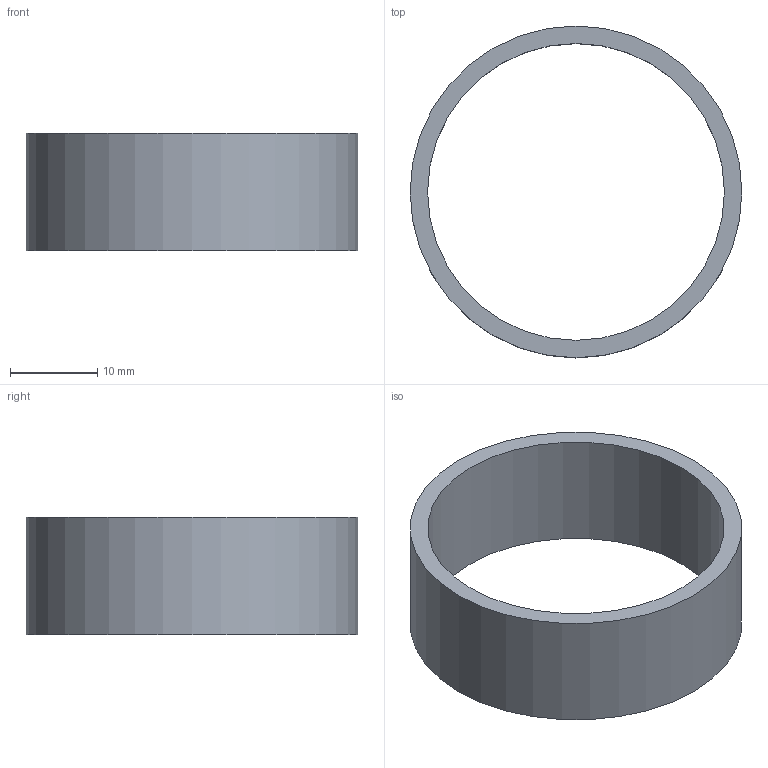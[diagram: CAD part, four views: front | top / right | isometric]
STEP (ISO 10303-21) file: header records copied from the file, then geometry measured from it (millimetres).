
FILE_DESCRIPTION(('Open CASCADE Model'),'2;1');
FILE_NAME('Open CASCADE Shape Model','2026-10-17T21:05:48',('Author'),( 'Open CASCADE'),'Open CASCADE STEP processor 7.9','Open CASCADE 7.9' ,'Unknown');
FILE_SCHEMA(('AUTOMOTIVE_DESIGN { 1 0 10303 214 1 1 1 1 }'));
Length unit declared in the file: millimetre
Products named in the file (1): Open CASCADE STEP translator 7.9 10
Bounding box: 38 x 38 x 13.5 mm (x, y, z)
Volume: 3053.6 mm3; surface area: 3506 mm2
Topology: 1 solids, 1 shells, 4 faces, 6 edges, 4 vertices
Faces by surface type: cylinder 2, plane 2
Full cylindrical faces by diameter (mm): 34 x1, 38 x1
Entity records: 192 total; most frequent: CARTESIAN_POINT 39, DIRECTION 30, ORIENTED_EDGE 12, PCURVE 12, DEFINITIONAL_REPRESENTATION 12, LINE 10, VECTOR 10, AXIS2_PLACEMENT_3D 9
